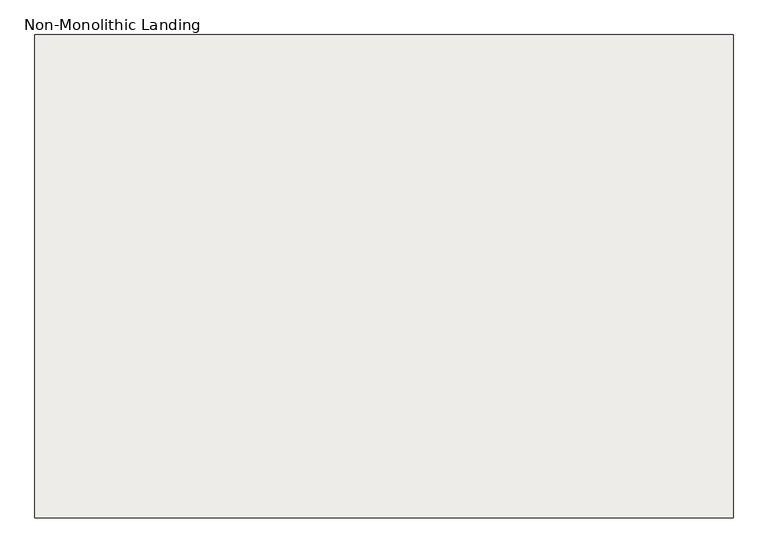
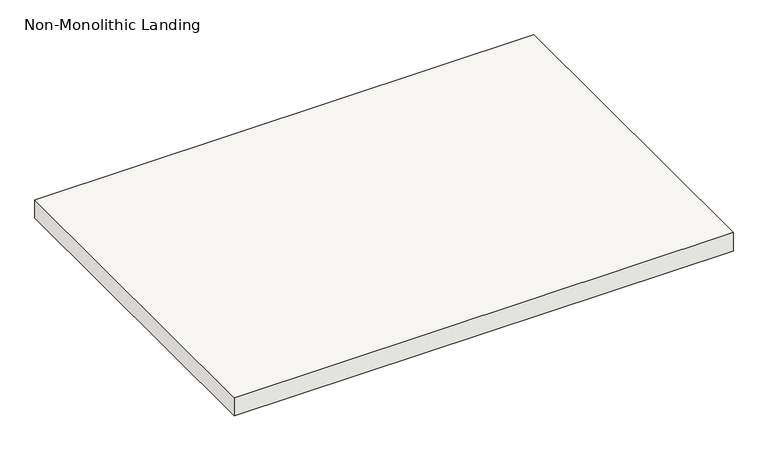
"""IFC4 building model written with IfcOpenShell, lengths in millimetres: slab geometry, Non-Monolithic Landing."""

from ifc_helpers import new_model, si_unit, frame, origin, place, context, project, spatial, polyline, outline, extrude, source, transform, mapped, element, save


def non_monolithic_landing_61dc7ece(model_context):
    return source(origin(), model_context, "Body", "SweptSolid", [
        extrude(outline(polyline([(138305.2882982, -18034.2120358), (139626.0882982, -18034.2120358), (139626.0882982, -18948.6120358), (138305.2882982, -18948.6120358), (138305.2882982, -18034.2120358)])), frame((0.0, 0.0, 2126.3428571), z_axis=(0.0, 0.0, 1.0), x_axis=(1.0, 0.0, 0.0)), (0.0, 0.0, 1.0), 50.8),
    ])


if __name__ == "__main__":
    model = new_model("IFC4")
    model_context = context("Model", 3, world=origin())
    ifc_project = project(units=[si_unit("LENGTHUNIT", "METRE", prefix="MILLI")], contexts=[model_context])
    site = spatial("IfcSite", under=ifc_project)
    building = spatial("IfcBuilding", under=site)
    placement = place(None, origin())
    non_monolithic_landing_shape = non_monolithic_landing_61dc7ece(model_context)
    element("IfcSlab", 1, ObjectType="Non-Monolithic Landing", at=placement, inside=building, context=model_context, shape_type="MappedRepresentation", body=[
        mapped(non_monolithic_landing_shape, transform((0.0, 0.0, 0.0), x_axis=(1.0, 0.0, 0.0), y_axis=(0.0, 1.0, 0.0), z_axis=(0.0, 0.0, 1.0))),
    ])
    save(model, "model.ifc")
